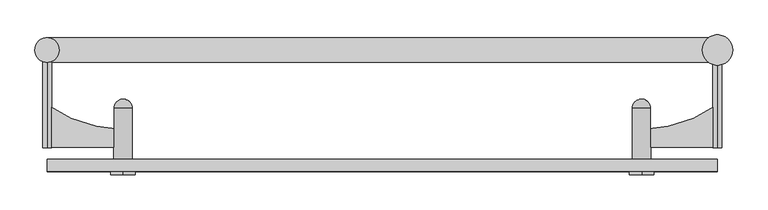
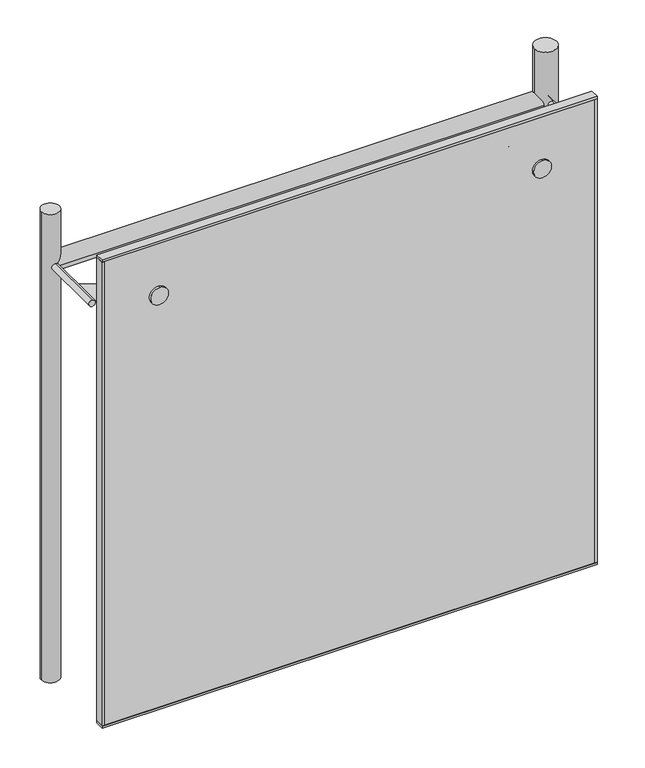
"""IFC4 building model written with IfcOpenShell, lengths in millimetres: plate geometry, FLATNING_TRYOUT : FLATNING_TRYOUT."""

from ifc_helpers import new_model, si_unit, point, frame, frame_2d, origin, origin_with_axes, place, context, project, spatial, polyline, circle_curve, ellipse_curve, trimmed, segment, composite_curve, outline, extrude, source, transform, mapped, element, save
from ifc_brep_helpers import plane_surface, cylinder_surface, revolved_surface, advanced_brep


def plate_3c04c4e5(model_context):
    return source(origin(), model_context, "Body", "SolidModel", [
        extrude(outline(composite_curve([segment(polyline([(-427.363113, 38.8273073), (-552.3614553, 39.4710573), (-552.0009553, 109.470129)]), True, "CONTINUOUS"), segment(trimmed(circle_curve(frame_2d((-421.8263088, 297.2578864)), 228.4943772), [point((-552.0009553, 109.470129))], [point((-427.208613, 68.8269095))], True, "CARTESIAN"), True, "CONTINUOUS"), segment(polyline([(-427.208613, 68.8269095), (-427.363113, 38.8273073)]), True, "CONTINUOUS")], self_intersect=False)), frame((0.0, 0.0, 977.5), z_axis=(0.0, 0.0, 1.0), x_axis=(1.0, 0.0, 0.0)), (0.0, 0.0, 1.0), 5.0),
        advanced_brep(
        [(-427.569113, -1.1721622, 980.0), (-422.5691793, -1.1979122, 980.0), (-432.5690467, -1.1464122, 980.0), (-412.4663119, 18.7503226, 980.0), (-412.0285619, 103.7491953, 980.0), (-442.0281641, 103.9036953, 980.0), (-442.4659141, 18.9048226, 980.0), (-422.4661793, 18.8018226, 980.0), (-432.4660467, 18.8533226, 980.0), (-426.951113, 118.8262464, 980.0)],
        [
            (0, 1),
            (1, 2, circle_curve(frame((-427.569113, -1.1721622, 980.0), z_axis=(-0.0051500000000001, -0.9999867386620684, 0.0), x_axis=(-0.9999867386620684, 0.0051500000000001, 0.0)), 5.0)),
            (2, 0),
            (2, 1, circle_curve(frame((-427.569113, -1.1721622, 980.0), z_axis=(-0.0051500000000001, -0.9999867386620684, 0.0), x_axis=(-0.9999867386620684, 0.0051500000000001, 0.0)), 5.0)),
            (3, 4),
            (4, 5, circle_curve(frame((-427.028363, 103.8264453, 980.0), z_axis=(-0.0051500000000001, -0.9999867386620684, 0.0), x_axis=(-0.9999867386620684, 0.0051500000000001, 0.0)), 15.0)),
            (5, 6),
            (6, 3, circle_curve(frame((-427.466113, 18.8275726, 980.0), z_axis=(0.0051500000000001, 0.9999867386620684, 0.0), x_axis=(-0.9999867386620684, 0.0051500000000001, 0.0)), 15.0)),
            (5, 4, circle_curve(frame((-427.028363, 103.8264453, 980.0), z_axis=(-0.0051500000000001, -0.9999867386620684, 0.0), x_axis=(-0.9999867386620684, 0.0051500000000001, 0.0)), 15.0)),
            (3, 6, circle_curve(frame((-427.466113, 18.8275726, 980.0), z_axis=(0.0051500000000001, 0.9999867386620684, 0.0), x_axis=(-0.9999867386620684, 0.0051500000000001, 0.0)), 15.0)),
            (7, 3),
            (6, 8),
            (8, 7, circle_curve(frame((-427.466113, 18.8275726, 980.0), z_axis=(0.0051500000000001, 0.9999867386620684, 0.0), x_axis=(-0.9999867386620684, 0.0051500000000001, 0.0)), 5.0)),
            (7, 8, circle_curve(frame((-427.466113, 18.8275726, 980.0), z_axis=(0.0051500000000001, 0.9999867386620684, 0.0), x_axis=(-0.9999867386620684, 0.0051500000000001, 0.0)), 5.0)),
            (1, 7),
            (8, 2),
            (4, 9, circle_curve(frame((-427.028363, 103.8264453, 980.0), z_axis=(0.0, 0.0, 1.0), x_axis=(0.9999867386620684, -0.0051500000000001, 0.0)), 15.0)),
            (9, 5, circle_curve(frame((-427.028363, 103.8264453, 980.0), z_axis=(0.0, 0.0, 1.0), x_axis=(-0.9999867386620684, 0.0051500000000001, 0.0)), 15.0)),
        ],
        [
            plane_surface(frame((-427.569113, -1.1721622, 980.0), z_axis=(-0.0051500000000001, -0.9999867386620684, 0.0), x_axis=(-0.9999867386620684, 0.0051500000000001, 0.0))),
            cylinder_surface(frame((-428.882363, -256.1687806, 980.0), z_axis=(-0.0051500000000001, -0.9999867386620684, 0.0), x_axis=(-0.9999867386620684, 0.0051500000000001, 0.0)), 15.0),
            plane_surface(frame((-427.466113, 18.8275726, 980.0), z_axis=(-0.0051500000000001, -0.9999867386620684, 0.0), x_axis=(-0.9999867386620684, 0.0051500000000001, 0.0))),
            cylinder_surface(frame((-428.882363, -256.1687806, 980.0), z_axis=(-0.0051500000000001, -0.9999867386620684, 0.0), x_axis=(-0.9999867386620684, 0.0051500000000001, 0.0)), 5.0),
            revolved_surface(trimmed(ellipse_curve(frame((-427.028363, 103.8264453, 980.0), z_axis=(0.0, 0.0, 1.0), x_axis=(-0.9999867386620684, 0.0051500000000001, 0.0)), 15.0, 15.0), [point((-426.951113, 118.8262464, 980.0))], [point((-442.0281641, 103.9036953, 980.0))], True, "CARTESIAN"), (-428.882363, -256.1687806, 980.0), (-0.0051500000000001, -0.9999867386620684, 0.0)),
        ],
        [
            (0, [[1, 2, 3]]),
            (0, [[-3, 4, -1]]),
            (1, [[5, 6, 7, 8]]),
            (1, [[-7, 9, -5, 10]]),
            (2, [[11, -8, 12, 13]]),
            (2, [[-12, -10, -11, 14]]),
            (3, [[15, -13, 16, -2]]),
            (3, [[-16, -14, -15, -4]]),
            (4, [[17, 18, -6]]),
            (4, [[-18, -17, -9]]),
        ],
    ),
        extrude(outline(composite_curve([segment(polyline([(427.363113, 38.8273073), (427.208613, 68.8269095)]), True, "CONTINUOUS"), segment(trimmed(circle_curve(frame_2d((421.8263088, 297.2578864)), 228.4943772), [point((427.208613, 68.8269095))], [point((552.0009553, 109.470129))], True, "CARTESIAN"), True, "CONTINUOUS"), segment(polyline([(552.0009553, 109.470129), (552.3614553, 39.4710573), (427.363113, 38.8273073)]), True, "CONTINUOUS")], self_intersect=False)), frame((0.0, 0.0, 977.5), z_axis=(0.0, 0.0, 1.0), x_axis=(1.0, 0.0, 0.0)), (0.0, 0.0, 1.0), 5.0),
        advanced_brep(
        [(427.569113, -1.1721622, 980.0), (422.5691793, -1.1979122, 980.0), (432.5690467, -1.1464122, 980.0), (412.4663119, 18.7503226, 980.0), (412.0285619, 103.7491953, 980.0), (442.0281641, 103.9036953, 980.0), (442.4659141, 18.9048226, 980.0), (422.4661793, 18.8018226, 980.0), (432.4660467, 18.8533226, 980.0), (426.951113, 118.8262464, 980.0)],
        [
            (0, 1),
            (1, 2, circle_curve(frame((427.569113, -1.1721622, 980.0), z_axis=(0.005149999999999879, -0.9999867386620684, 0.0), x_axis=(0.9999867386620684, 0.005149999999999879, 0.0)), 5.0)),
            (2, 0),
            (2, 1, circle_curve(frame((427.569113, -1.1721622, 980.0), z_axis=(0.005149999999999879, -0.9999867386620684, 0.0), x_axis=(0.9999867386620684, 0.005149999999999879, 0.0)), 5.0)),
            (3, 4),
            (4, 5, circle_curve(frame((427.028363, 103.8264453, 980.0), z_axis=(0.005149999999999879, -0.9999867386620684, 0.0), x_axis=(0.9999867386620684, 0.005149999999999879, 0.0)), 15.0)),
            (5, 6),
            (6, 3, circle_curve(frame((427.466113, 18.8275726, 980.0), z_axis=(-0.005149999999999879, 0.9999867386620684, 0.0), x_axis=(0.9999867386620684, 0.005149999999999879, 0.0)), 15.0)),
            (5, 4, circle_curve(frame((427.028363, 103.8264453, 980.0), z_axis=(0.005149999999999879, -0.9999867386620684, 0.0), x_axis=(0.9999867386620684, 0.005149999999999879, 0.0)), 15.0)),
            (3, 6, circle_curve(frame((427.466113, 18.8275726, 980.0), z_axis=(-0.005149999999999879, 0.9999867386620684, 0.0), x_axis=(0.9999867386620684, 0.005149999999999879, 0.0)), 15.0)),
            (7, 3),
            (6, 8),
            (8, 7, circle_curve(frame((427.466113, 18.8275726, 980.0), z_axis=(-0.005149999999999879, 0.9999867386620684, 0.0), x_axis=(0.9999867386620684, 0.005149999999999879, 0.0)), 5.0)),
            (7, 8, circle_curve(frame((427.466113, 18.8275726, 980.0), z_axis=(-0.005149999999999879, 0.9999867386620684, 0.0), x_axis=(0.9999867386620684, 0.005149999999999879, 0.0)), 5.0)),
            (1, 7),
            (8, 2),
            (4, 9, circle_curve(frame((427.028363, 103.8264453, 980.0), z_axis=(0.0, 0.0, -1.0), x_axis=(-0.9999867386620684, -0.005149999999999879, 0.0)), 15.0)),
            (9, 5, circle_curve(frame((427.028363, 103.8264453, 980.0), z_axis=(0.0, 0.0, -1.0), x_axis=(0.9999867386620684, 0.005149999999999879, 0.0)), 15.0)),
        ],
        [
            plane_surface(frame((427.569113, -1.1721622, 980.0), z_axis=(0.005149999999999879, -0.9999867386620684, 0.0), x_axis=(0.9999867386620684, 0.005149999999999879, 0.0))),
            cylinder_surface(frame((428.882363, -256.1687806, 980.0), z_axis=(0.005149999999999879, -0.9999867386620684, 0.0), x_axis=(0.9999867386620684, 0.005149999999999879, 0.0)), 15.0),
            plane_surface(frame((427.466113, 18.8275726, 980.0), z_axis=(0.005149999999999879, -0.9999867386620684, 0.0), x_axis=(0.9999867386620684, 0.005149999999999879, 0.0))),
            cylinder_surface(frame((428.882363, -256.1687806, 980.0), z_axis=(0.005149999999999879, -0.9999867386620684, 0.0), x_axis=(0.9999867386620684, 0.005149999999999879, 0.0)), 5.0),
            revolved_surface(trimmed(ellipse_curve(frame((427.028363, 103.8264453, 980.0), z_axis=(0.0, 0.0, -1.0), x_axis=(0.9999867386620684, 0.005149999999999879, 0.0)), 15.0, 15.0), [point((426.951113, 118.8262464, 980.0))], [point((442.0281641, 103.9036953, 980.0))], True, "CARTESIAN"), (428.882363, -256.1687806, 980.0), (0.005149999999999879, -0.9999867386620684, 0.0)),
        ],
        [
            (0, [[1, 2, 3]]),
            (0, [[-3, 4, -1]]),
            (1, [[5, 6, 7, 8]]),
            (1, [[-7, 9, -5, 10]]),
            (2, [[11, -8, 12, 13]]),
            (2, [[-12, -10, -11, 14]]),
            (3, [[15, -13, 16, -2]]),
            (3, [[-16, -14, -15, -4]]),
            (4, [[17, 18, -6]]),
            (4, [[-18, -17, -9]]),
        ],
    ),
        extrude(outline(polyline([(552.5, 20.0), (552.5, 0.0), (-552.5, 0.0), (-552.5, 20.0), (552.5, 20.0)])), origin_with_axes(), (0.0, 0.0, 1.0), 5.0),
        extrude(outline(polyline([(552.5, 20.0), (552.5, 0.0), (-552.5, 0.0), (-552.5, 20.0), (552.5, 20.0)])), frame((0.0, 0.0, 1100.0), z_axis=(0.0, 0.0, 1.0), x_axis=(1.0, 0.0, 0.0)), (0.0, 0.0, 1.0), 5.0),
        extrude(outline(polyline([(547.5, -0.0781286), (547.5, 20.0), (552.5, 20.0), (552.5, -0.0781286), (547.5, -0.0781286)])), frame((0.0, 0.0, 5.0), z_axis=(0.0, 0.0, 1.0), x_axis=(1.0, 0.0, 0.0)), (0.0, 0.0, 1.0), 1095.0),
        extrude(outline(polyline([(-547.5, -0.5287596), (-552.5000001, -0.5287596), (-552.5000001, 20.0), (-547.5, 20.0), (-547.5, -0.5287596)])), frame((0.0, 0.0, 5.0), z_axis=(0.0, 0.0, 1.0), x_axis=(1.0, 0.0, 0.0)), (0.0, 0.0, 1.0), 1095.0),
        extrude(outline(polyline([(547.5, 20.0), (547.5, 0.0), (-547.5, 0.0), (-547.5, 20.0), (547.5, 20.0)])), frame((0.0, 0.0, 5.0), z_axis=(0.0, 0.0, 1.0), x_axis=(1.0, 0.0, 0.0)), (0.0, 0.0, 1.0), 1095.0),
        extrude(outline(composite_curve([segment(trimmed(circle_curve(frame_2d((0.0, 20.0)), 20.0), [point((0.0, 40.0))], [point((0.0, 0.0))], False, "CARTESIAN"), True, "CONTINUOUS"), segment(trimmed(circle_curve(frame_2d((0.0, 20.0)), 20.0), [point((0.0, 0.0))], [point((0.0, 40.0))], False, "CARTESIAN"), True, "CONTINUOUS")], self_intersect=False)), frame((-427.5, -5.7218209, 1000.1579003), z_axis=(-0.005149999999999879, 0.9999867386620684, 0.0), x_axis=(0.9999867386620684, 0.005149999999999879, 0.0)), (0.0, 0.0, 1.0), 5.0),
        extrude(outline(composite_curve([segment(trimmed(circle_curve(frame_2d((0.0, 20.0)), 20.0), [point((0.0, 40.0))], [point((0.0, 0.0))], False, "CARTESIAN"), True, "CONTINUOUS"), segment(trimmed(circle_curve(frame_2d((0.0, 20.0)), 20.0), [point((0.0, 0.0))], [point((0.0, 40.0))], False, "CARTESIAN"), True, "CONTINUOUS")], self_intersect=False)), frame((427.5, -5.7218209, 1000.1579003), z_axis=(-0.005149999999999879, 0.9999867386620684, 0.0), x_axis=(0.9999867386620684, 0.005149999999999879, 0.0)), (0.0, 0.0, 1.0), 5.0),
        extrude(outline(composite_curve([segment(trimmed(circle_curve(frame_2d((200.0, 980.0)), 20.0), [point((220.0, 980.0))], [point((180.0, 980.0))], False, "CARTESIAN"), True, "CONTINUOUS"), segment(trimmed(circle_curve(frame_2d((200.0, 980.0)), 20.0), [point((180.0, 980.0))], [point((220.0, 980.0))], False, "CARTESIAN"), True, "CONTINUOUS")], self_intersect=False)), frame((-552.5, 0.0, 0.0), z_axis=(1.0, 0.0, 0.0), x_axis=(0.0, 1.0, 0.0)), (0.0, 0.0, 1.0), 1105.0),
        extrude(outline(composite_curve([segment(trimmed(circle_curve(frame_2d((980.0, 552.5)), 7.5), [point((972.5, 552.5))], [point((987.5, 552.5))], False, "CARTESIAN"), True, "CONTINUOUS"), segment(trimmed(circle_curve(frame_2d((980.0, 552.5)), 7.5), [point((987.5, 552.5))], [point((972.5, 552.5))], False, "CARTESIAN"), True, "CONTINUOUS")], self_intersect=False)), frame((0.0, 39.2242369, 0.0), z_axis=(0.0, 1.0, 0.0), x_axis=(0.0, 0.0, 1.0)), (0.0, 0.0, 1.0), 160.0),
        extrude(outline(composite_curve([segment(trimmed(circle_curve(frame_2d((980.0, -552.5)), 7.5), [point((972.5, -552.5))], [point((987.5, -552.5))], False, "CARTESIAN"), True, "CONTINUOUS"), segment(trimmed(circle_curve(frame_2d((980.0, -552.5)), 7.5), [point((987.5, -552.5))], [point((972.5, -552.5))], False, "CARTESIAN"), True, "CONTINUOUS")], self_intersect=False)), frame((0.0, 38.6528093, 0.0), z_axis=(0.0, 1.0, 0.0), x_axis=(0.0, 0.0, 1.0)), (0.0, 0.0, 1.0), 160.0),
        extrude(outline(composite_curve([segment(trimmed(circle_curve(frame_2d((552.5, 200.0)), 25.0), [point((527.5, 200.0))], [point((577.5, 200.0))], False, "CARTESIAN"), True, "CONTINUOUS"), segment(trimmed(circle_curve(frame_2d((552.5, 200.0)), 25.0), [point((577.5, 200.0))], [point((527.5, 200.0))], False, "CARTESIAN"), True, "CONTINUOUS")], self_intersect=False)), origin_with_axes(), (0.0, 0.0, 1.0), 1105.0),
        extrude(outline(composite_curve([segment(trimmed(circle_curve(frame_2d((-552.5, 200.0)), 20.0), [point((-572.5, 200.0))], [point((-532.5, 200.0))], False, "CARTESIAN"), True, "CONTINUOUS"), segment(trimmed(circle_curve(frame_2d((-552.5, 200.0)), 20.0), [point((-532.5, 200.0))], [point((-572.5, 200.0))], False, "CARTESIAN"), True, "CONTINUOUS")], self_intersect=False)), origin_with_axes(), (0.0, 0.0, 1.0), 1105.0),
    ])


if __name__ == "__main__":
    model = new_model("IFC4")
    model_context = context("Model", 3, world=origin())
    ifc_project = project(units=[si_unit("LENGTHUNIT", "METRE", prefix="MILLI")], contexts=[model_context])
    site = spatial("IfcSite", under=ifc_project)
    building = spatial("IfcBuilding", under=site)
    placement = place(None, origin())
    plate_shape = plate_3c04c4e5(model_context)
    element("IfcPlate", 1, ObjectType="FLATNING_TRYOUT : FLATNING_TRYOUT", at=placement, inside=building, context=model_context, shape_type="MappedRepresentation", body=[
        mapped(plate_shape, transform((0.0, 0.0, 0.0), x_axis=(1.0, 0.0, 0.0), y_axis=(0.0, 1.0, 0.0), z_axis=(0.0, 0.0, 1.0))),
    ])
    save(model, "model.ifc")
